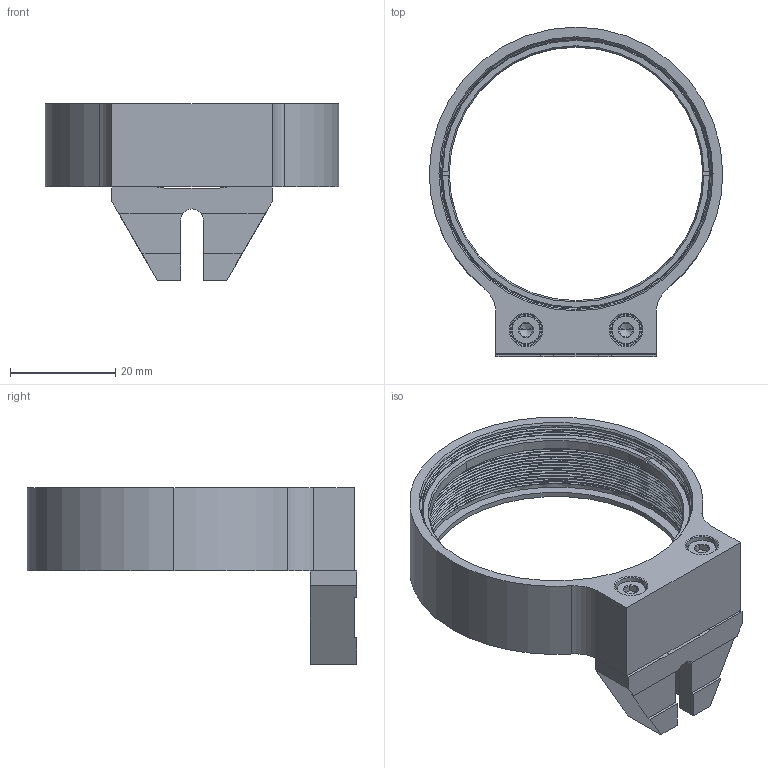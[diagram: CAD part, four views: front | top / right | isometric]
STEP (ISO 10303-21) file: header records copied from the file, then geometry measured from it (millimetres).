
FILE_DESCRIPTION((''),'2;1');
FILE_NAME('LB5CT2_ASM','2021-03-19T',('Administrator'),(''),'CREO PARAMETRIC BY PTC INC, 2015290','CREO PARAMETRIC BY PTC INC, 2015290','');
FILE_SCHEMA(('CONFIG_CONTROL_DESIGN'));
Length unit declared in the file: millimetre
Products named in the file (5): LB5CT2_A1; LB5CT2_A2; M3X16_HM; CSK4; LB5CT2_ASM
Assembly tree (5 placements, depth 2):
  LB5CT2_ASM
    LB5CT2_A1
    LB5CT2_A2
    M3X16_HM  x2
    CSK4
Bounding box: 55.88 x 62.74 x 33.66 mm (x, y, z)
Volume: 12927.8 mm3; surface area: 12119.7 mm2
Topology: 5 solids, 5 shells, 284 faces, 711 edges, 439 vertices
Faces by surface type: cylinder 119, plane 73, cone 47, bspline 45
Entity records: 18289 total; most frequent: CARTESIAN_POINT 12554, ORIENTED_EDGE 1302, DIRECTION 946, EDGE_CURVE 651, VERTEX_POINT 414, AXIS2_PLACEMENT_3D 336, VECTOR 274, LINE 274
